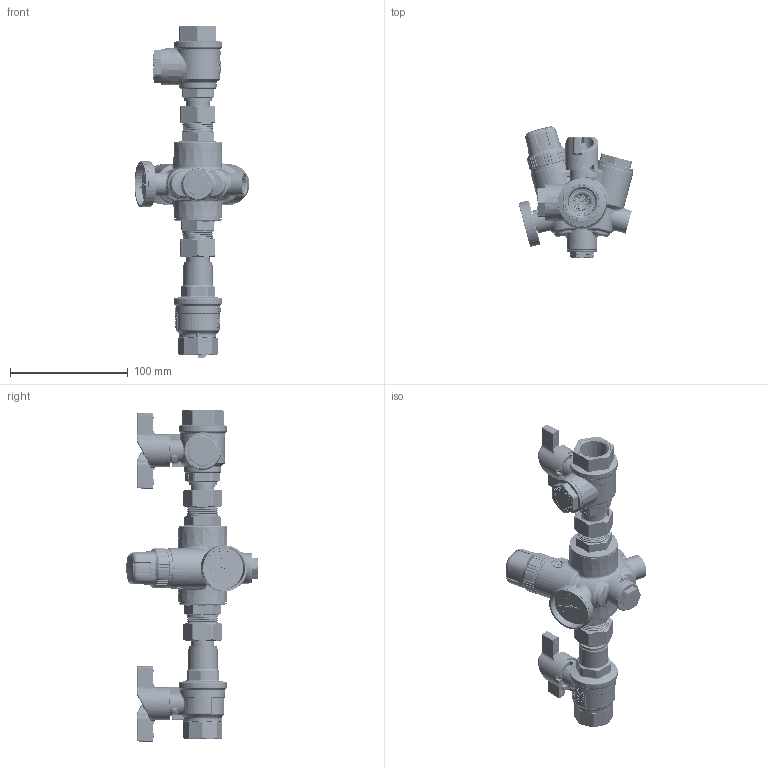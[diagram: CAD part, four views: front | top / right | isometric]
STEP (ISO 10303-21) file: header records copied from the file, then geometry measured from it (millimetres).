
FILE_DESCRIPTION((''),'2;1');
FILE_NAME('TBV_ASS_VAR_1_ASM','2022-10-11T15:09:35',('mirco.molonato'),(''),'CREO PARAMETRIC BY PTC INC, 2022124','CREO PARAMETRIC BY PTC INC, 2022124','');
FILE_SCHEMA(('CONFIG_CONTROL_DESIGN'));
Length unit declared in the file: millimetre
Products named in the file (48): 21165; 21049; 21050; OR_2068_AF0; OR_2068_AF1; OR_1_78X26_70_AF0; OR_1_78X26_70_AF1; 21158; 19151; 21046; 21047; 21048; OR_1_78X26_70_AF2; OR_1_78X26_70_AF3; TERMOMETRO_T40_OR; OR17X2; 21051; 21183; 21256; 21071; SEDE_PTFE_F20; 09096; 09101; OR_107_AF0; OR_107_AF1; AN_PTFE_SF_20_DEF_AF0; 87167; 21044; GUARN_DEF_23X16X2; 06010; 99186; 12074; 22021; 00128; 21072_ASM; 21182; 22305; 22276; OR_107_8X1_5_AF2; OR_107_8X1_5_AF3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
Assembly tree (59 placements, depth 3):
  TBV_ASS_VAR_1_ASM
    21165
    21049
    21050
    OR_2068_AF0
    OR_2068_AF1
    OR_1_78X26_70_AF0
    OR_1_78X26_70_AF1
    21158
    19151
    21046
    21047
    21048
    OR_1_78X26_70_AF2
    OR_1_78X26_70_AF3
    TERMOMETRO_T40_OR
    OR17X2
    21051
    21183  x2
    21072_ASM
      21256
      21071
      SEDE_PTFE_F20  x2
      09096
      09101
      OR_107_AF0
      OR_107_AF1
      AN_PTFE_SF_20_DEF_AF0
      87167
      21044
      GUARN_DEF_23X16X2
      06010
      99186
      12074
      22021
      00128
    21182
    22307_ASM
      22305
      22276
      09101
      OR_107_8X1_5_AF2
      OR_107_8X1_5_AF3
      87167
      SEDE_PTFE_F20  x2
      21153
      12052
      12058_AF2
      AN_PTFE_SF_20_DEF_AF3
      21151
      2_25X22_5
      12074
      22021
      00128
      99186
      06010
      GUARN_DEF_23X16X2
Bounding box: 97.79 x 111.79 x 282.49 mm (x, y, z)
Volume: 266917.1 mm3; surface area: 213553.9 mm2
Topology: 60 solids, 101 shells, 15055 faces, 41803 edges, 26794 vertices
Faces by surface type: plane 5514, extrusion 3178, bspline 3071, cylinder 1914, cone 692, torus 493, sphere 101, revolution 92
Entity records: 589432 total; most frequent: CARTESIAN_POINT 263335, ORIENTED_EDGE 79257, DIRECTION 45218, EDGE_CURVE 39716, VERTEX_POINT 25553, B_SPLINE_CURVE_WITH_KNOTS 22910, VECTOR 17474, EDGE_LOOP 16693
